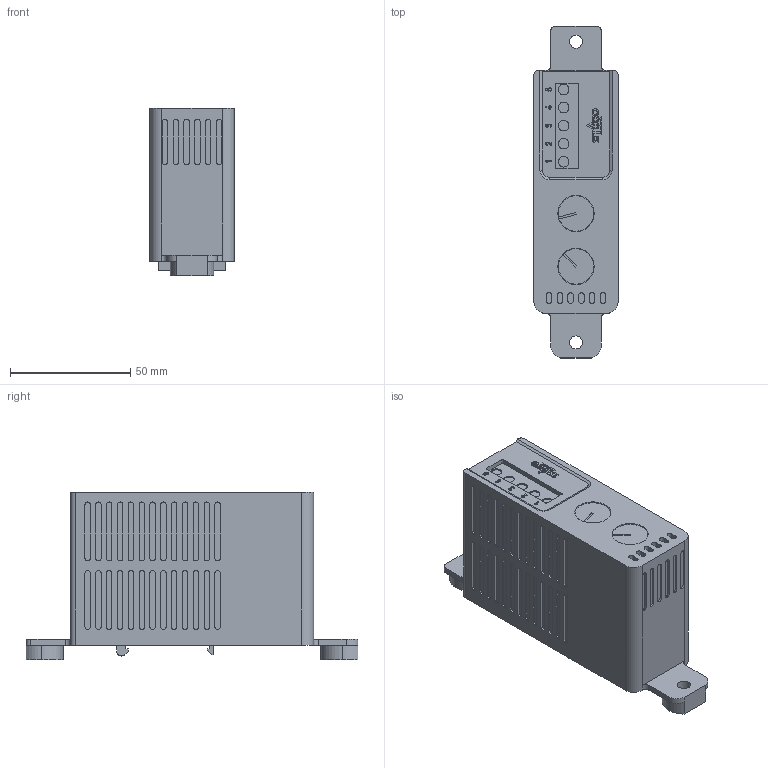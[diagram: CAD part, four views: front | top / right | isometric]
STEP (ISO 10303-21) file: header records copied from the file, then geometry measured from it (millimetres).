
FILE_DESCRIPTION (( 'STEP AP214' ), '1' );
FILE_NAME ('STEP_ETF 012_2.STEP', '2025-07-07T13:07:00', ( '' ), ( '' ), 'SwSTEP 2.0', 'SolidWorks 2025', '' );
FILE_SCHEMA (( 'AUTOMOTIVE_DESIGN' ));
Length unit declared in the file: millimetre
Products named in the file (1): STEP_ETF 012_2
Bounding box: 35 x 137.94 x 69.5 mm (x, y, z)
Volume: 223359.4 mm3; surface area: 30334.8 mm2
Topology: 1 solids, 1 shells, 741 faces, 1899 edges, 1264 vertices
Faces by surface type: plane 415, cylinder 271, bspline 51, cone 4
Entity records: 24388 total; most frequent: CARTESIAN_POINT 6100, ORIENTED_EDGE 3798, DIRECTION 3733, EDGE_CURVE 1899, VERTEX_POINT 1264, AXIS2_PLACEMENT_3D 1245, LINE 1243, VECTOR 1243
